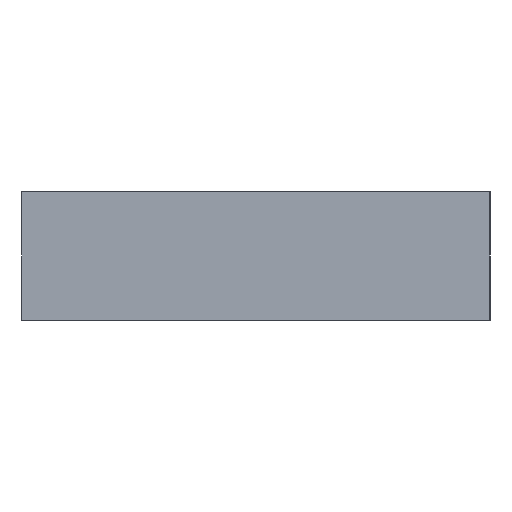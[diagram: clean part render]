
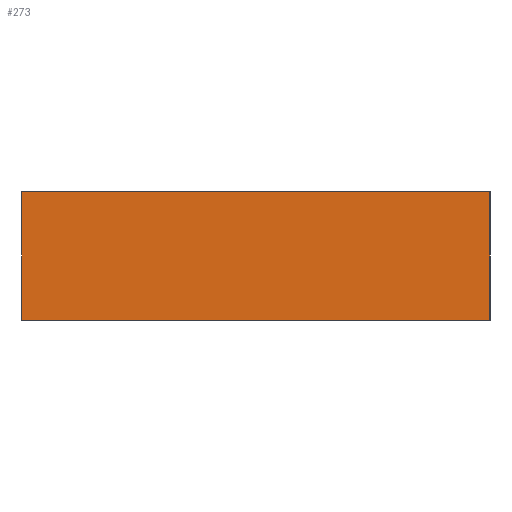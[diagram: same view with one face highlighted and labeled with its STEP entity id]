
A CAD part, left-side view. The second image highlights one B-rep face of the part: STEP entity #273.
In plain terms, the highlighted planar face has unit normal (-1, 0, 0).
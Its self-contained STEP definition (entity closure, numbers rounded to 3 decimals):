
#25=PLANE('',#319);
#40=FACE_OUTER_BOUND('',#56,.T.);
#56=EDGE_LOOP('',(#234,#235,#236,#237));
#84=LINE('',#463,#112);
#85=LINE('',#466,#113);
#86=LINE('',#468,#114);
#87=LINE('',#469,#115);
#112=VECTOR('',#385,10.);
#113=VECTOR('',#388,10.);
#114=VECTOR('',#389,10.);
#115=VECTOR('',#390,10.);
#146=VERTEX_POINT('',#459);
#147=VERTEX_POINT('',#461);
#148=VERTEX_POINT('',#465);
#149=VERTEX_POINT('',#467);
#180=EDGE_CURVE('',#146,#147,#84,.T.);
#181=EDGE_CURVE('',#146,#148,#85,.T.);
#182=EDGE_CURVE('',#149,#147,#86,.T.);
#183=EDGE_CURVE('',#148,#149,#87,.T.);
#234=ORIENTED_EDGE('',*,*,#181,.F.);
#235=ORIENTED_EDGE('',*,*,#180,.T.);
#236=ORIENTED_EDGE('',*,*,#182,.F.);
#237=ORIENTED_EDGE('',*,*,#183,.F.);
#273=ADVANCED_FACE('',(#40),#25,.T.);
#319=AXIS2_PLACEMENT_3D('',#464,#386,#387);
#385=DIRECTION('',(0.,0.,1.));
#386=DIRECTION('center_axis',(-1.,0.,0.));
#387=DIRECTION('ref_axis',(0.,-1.,0.));
#388=DIRECTION('',(0.,1.,0.));
#389=DIRECTION('',(0.,-1.,0.));
#390=DIRECTION('',(0.,0.,1.));
#459=CARTESIAN_POINT('',(-169.212,-86.635,0.));
#461=CARTESIAN_POINT('',(-169.212,-86.635,9.3));
#463=CARTESIAN_POINT('',(-169.212,-86.635,0.));
#464=CARTESIAN_POINT('Origin',(-169.212,-52.635,0.));
#465=CARTESIAN_POINT('',(-169.212,-52.635,0.));
#466=CARTESIAN_POINT('',(-169.212,-86.635,0.));
#467=CARTESIAN_POINT('',(-169.212,-52.635,9.3));
#468=CARTESIAN_POINT('',(-169.212,-86.635,9.3));
#469=CARTESIAN_POINT('',(-169.212,-52.635,0.));
